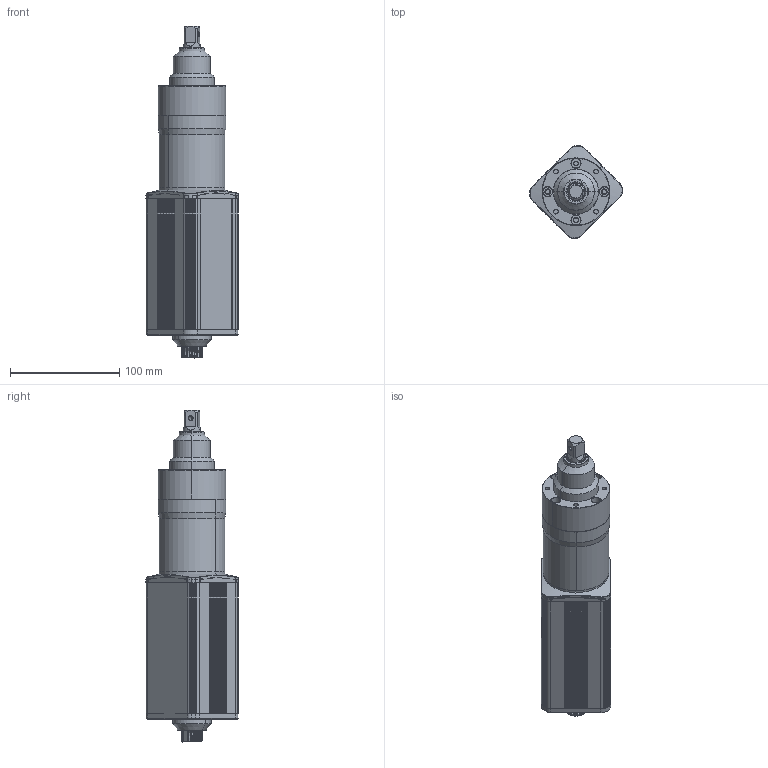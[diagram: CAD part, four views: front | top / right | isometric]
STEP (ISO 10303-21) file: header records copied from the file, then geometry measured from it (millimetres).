
FILE_DESCRIPTION (( 'STEP AP203' ), '1' );
FILE_NAME ('ZEDA-DE-MA12.7-3500 DE系列-低压高速智能电批.STEP', '2026-08-11T11:16:54', ( 'Windows User' ), ( 'P R C' ), 'SwSTEP 2.0', 'SolidWorks 2025', '' );
FILE_SCHEMA (( 'CONFIG_CONTROL_DESIGN' ));
Length unit declared in the file: millimetre
Products named in the file (1): ZEDA-DE-MA12.7-3500 DE系列-低压高速智能电批
Bounding box: 85.01 x 85.01 x 304.35 mm (x, y, z)
Surface area: 86978.6 mm2 (no closed solid volume)
Topology: 0 solids, 20 shells, 504 faces, 1538 edges, 1043 vertices
Faces by surface type: cylinder 300, plane 89, cone 51, bspline 46, torus 18
Entity records: 34063 total; most frequent: CARTESIAN_POINT 20682, DIRECTION 2889, ORIENTED_EDGE 2582, EDGE_CURVE 1538, AXIS2_PLACEMENT_3D 1150, VERTEX_POINT 1043, CIRCLE 691, VECTOR 589
